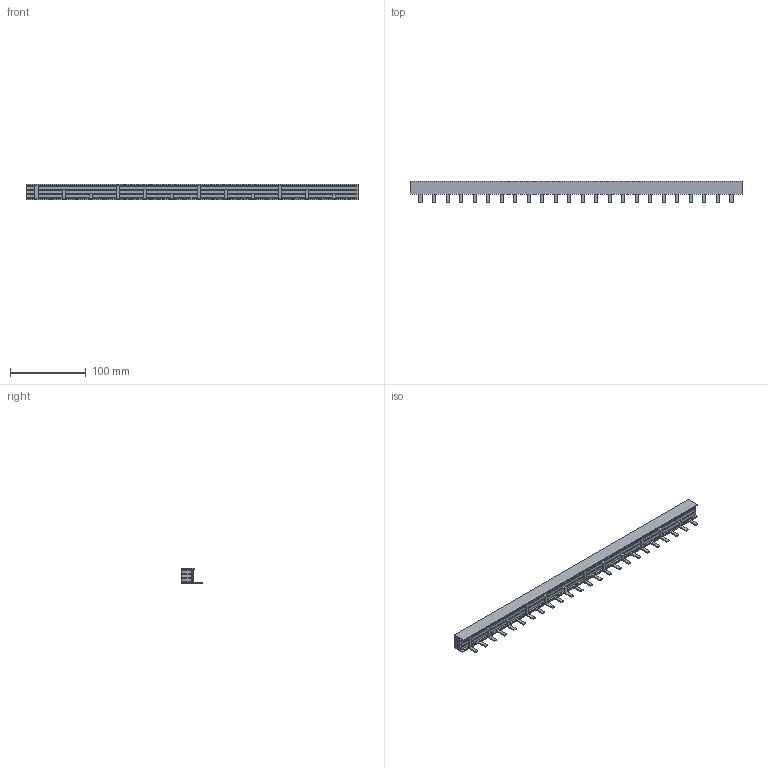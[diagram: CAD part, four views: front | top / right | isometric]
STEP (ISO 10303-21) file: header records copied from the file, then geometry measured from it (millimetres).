
FILE_DESCRIPTION((''),'2;1');
FILE_NAME('SB109553_3D-SOFTWARE_COLOUR','2013-09-11T',('SESA217760'),('Schneider-Electric'),'PRO/ENGINEER BY PARAMETRIC TECHNOLOGY CORPORATION, 2011410','PRO/ENGINEER BY PARAMETRIC TECHNOLOGY CORPORATION, 2011410','');
FILE_SCHEMA(('CONFIG_CONTROL_DESIGN'));
Length unit declared in the file: millimetre
Products named in the file (1): SB109553_3D-SOFTWARE_COLOUR
Bounding box: 437 x 28.5 x 20.5 mm (x, y, z)
Volume: 101296.5 mm3; surface area: 71455.7 mm2
Topology: 1 solids, 1 shells, 308 faces, 876 edges, 546 vertices
Faces by surface type: plane 308
Entity records: 9734 total; most frequent: ORIENTED_EDGE 1752, CARTESIAN_POINT 1730, DIRECTION 1492, VECTOR 876, LINE 876, EDGE_CURVE 876, VERTEX_POINT 546, AXIS2_PLACEMENT_3D 308
